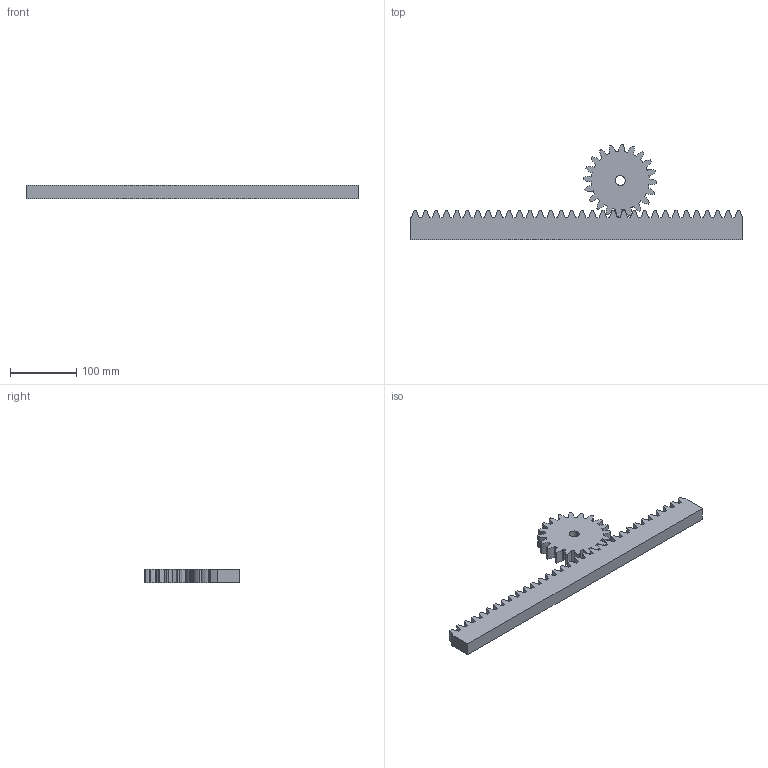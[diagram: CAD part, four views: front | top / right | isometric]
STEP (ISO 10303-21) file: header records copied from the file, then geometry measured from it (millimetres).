
FILE_DESCRIPTION(('CATIA V5 STEP Exchange'),'2;1');
FILE_NAME('F:\catia world\MY WORK\rack and pinion\Rack_and_Pinion.stp','2013-10-22T18:13:52+00:00',('none'),('none'),'CATIA Version 5 Release 21 GA (IN-10)','CATIA V5 STEP AP203','none');
FILE_SCHEMA(('CONFIG_CONTROL_DESIGN'));
Length unit declared in the file: millimetre
Products named in the file (1): Rack_and_Pinion
Assembly tree (3 placements, depth 2):
  Rack_and_Pinion
    #58
    #4424
    #7804
Bounding box: 500 x 144.52 x 20 mm (x, y, z)
Volume: 538314.5 mm3; surface area: 98889.3 mm2
Topology: 2 solids, 2 shells, 227 faces, 669 edges, 446 vertices
Faces by surface type: plane 135, cylinder 92
Entity records: 7810 total; most frequent: CARTESIAN_POINT 1783, ORIENTED_EDGE 1338, DIRECTION 1066, EDGE_CURVE 669, VECTOR 485, LINE 485, VERTEX_POINT 446, AXIS2_PLACEMENT_3D 348
